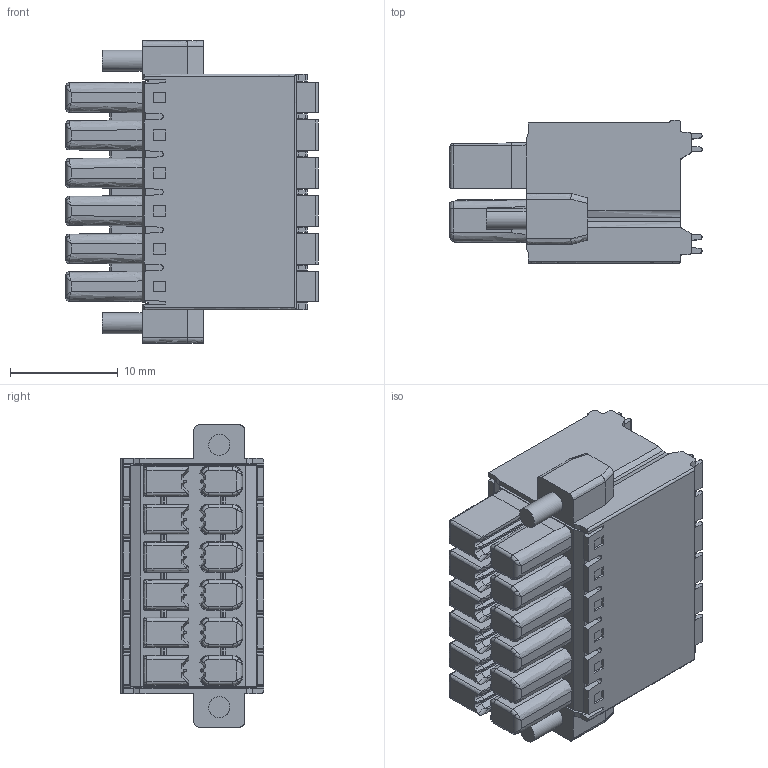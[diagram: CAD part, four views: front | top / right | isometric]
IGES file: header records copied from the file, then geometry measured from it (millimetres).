
Start section: ------------------------------------------------------------------------
Bounding box: 23.35 x 13.25 x 28 mm (x, y, z)
Volume: 4598.1 mm3; surface area: 4265 mm2
Topology: 1 solids, 1 shells, 1156 faces, 3047 edges, 1919 vertices
Faces by surface type: bspline 1156
